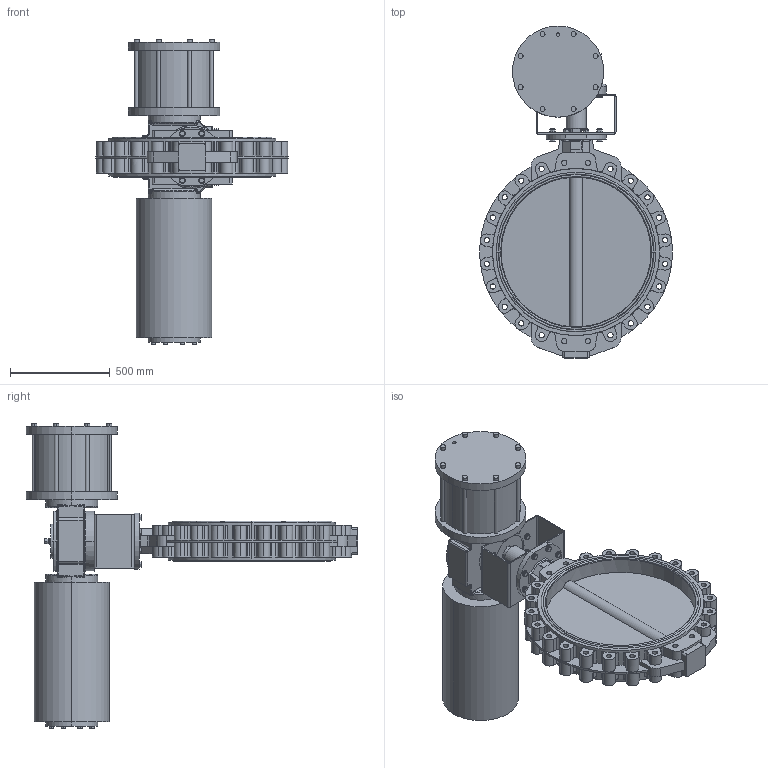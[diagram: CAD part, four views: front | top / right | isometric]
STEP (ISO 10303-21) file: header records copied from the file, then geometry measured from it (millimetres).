
FILE_DESCRIPTION (( 'STEP AP214' ), '1' );
FILE_NAME ('67388.step', '2020-10-23T12:39:30', ( '' ), ( '' ), 'SwSTEP 2.0', 'SolidWorks 2019', '' );
FILE_SCHEMA (( 'AUTOMOTIVE_DESIGN' ));
Length unit declared in the file: millimetre
Products named in the file (10): 6kt-Schr DIN 933_M16x55; TL20-0750_M01; 6kt-Schr DIN 933_M16x30; MB F25-F25_MB F25-F25 (1.4301); 6kt-Mu DIN 934_M16; 67394; U-Scheibe DIN 125 A_M16; Passfeder DIN 6885 A_20_12x125; 67388; SY01F25-400 SR6
Assembly tree (53 placements, depth 2):
  67388
    TL20-0750_M01
    SY01F25-400 SR6
    U-Scheibe DIN 125 A_M16  x24
    6kt-Schr DIN 933_M16x55  x8
    MB F25-F25_MB F25-F25 (1.4301)
    6kt-Mu DIN 934_M16  x8
    6kt-Schr DIN 933_M16x30  x8
    67394
    Passfeder DIN 6885 A_20_12x125
Bounding box: 963.54 x 1660 x 1530 mm (x, y, z)
Volume: 210470089.4 mm3; surface area: 6549627.3 mm2
Topology: 53 solids, 53 shells, 1848 faces, 4419 edges, 2712 vertices
Faces by surface type: plane 735, cylinder 711, cone 265, bspline 83, torus 54
Entity records: 43492 total; most frequent: CARTESIAN_POINT 12265, DIRECTION 6462, ORIENTED_EDGE 5954, EDGE_CURVE 2977, AXIS2_PLACEMENT_3D 2578, VERTEX_POINT 1884, CIRCLE 1427, EDGE_LOOP 1343
